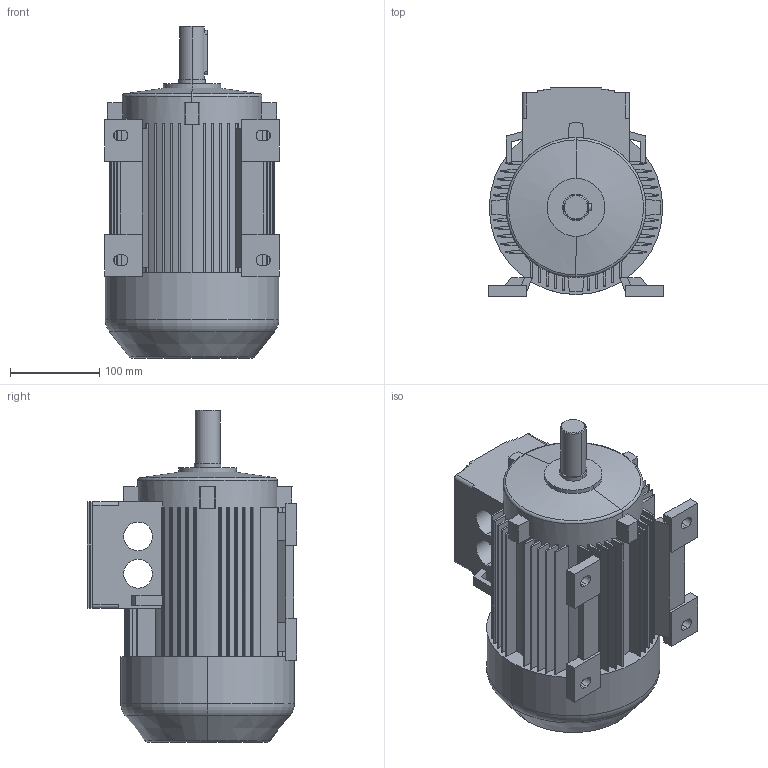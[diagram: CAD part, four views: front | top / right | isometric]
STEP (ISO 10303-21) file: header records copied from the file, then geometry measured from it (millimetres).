
FILE_DESCRIPTION((''),'2;1');
FILE_NAME('1LA7106-2AA10_PRT','2002-04-12T',('martin könig'),(''),'PRO/ENGINEER BY PARAMETRIC TECHNOLOGY CORPORATION, 2002030','PRO/ENGINEER BY PARAMETRIC TECHNOLOGY CORPORATION, 2002030','');
FILE_SCHEMA(('CONFIG_CONTROL_DESIGN'));
Length unit declared in the file: millimetre
Products named in the file (1): 1LA7106-2AA10_PRT
Bounding box: 196 x 235 x 373 mm (x, y, z)
Volume: 7724515 mm3; surface area: 488395.8 mm2
Topology: 1 solids, 1 shells, 315 faces, 893 edges, 588 vertices
Faces by surface type: plane 220, cylinder 83, torus 6, cone 6
Entity records: 10324 total; most frequent: CARTESIAN_POINT 1829, ORIENTED_EDGE 1786, DIRECTION 1775, EDGE_CURVE 893, VECTOR 637, LINE 637, VERTEX_POINT 588, AXIS2_PLACEMENT_3D 569
